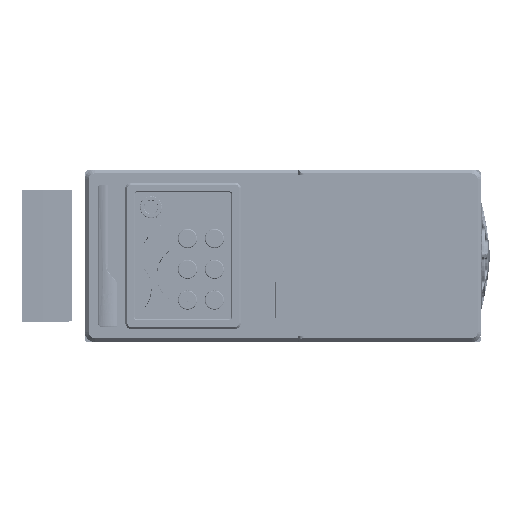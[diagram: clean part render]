
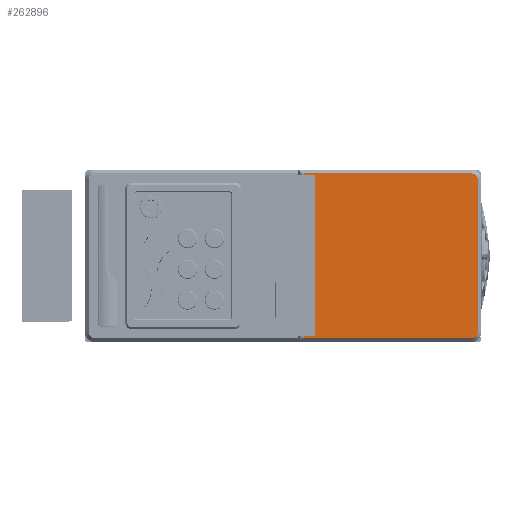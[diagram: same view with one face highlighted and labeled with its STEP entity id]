
A CAD part, top view. The second image highlights one B-rep face of the part: STEP entity #262896.
In plain terms, the highlighted planar face has unit normal (0, 0, 1) as drawn and (0, 1, 0) by its records, which use the part's own axes.
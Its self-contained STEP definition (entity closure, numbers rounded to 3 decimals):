
#259870=DIRECTION('',(-1.,0.,0.));
#259871=VECTOR('',#259870,1.027);
#259872=CARTESIAN_POINT('',(42.75,93.23,
84.09));
#259873=LINE('',#259872,#259871);
#259874=DIRECTION('',(-1.,0.,0.));
#259875=VECTOR('',#259874,83.446);
#259876=CARTESIAN_POINT('',(41.723,93.23,78.551));
#259877=LINE('',#259876,#259875);
#259878=DIRECTION('',(-1.,0.,0.));
#259879=VECTOR('',#259878,1.027);
#259880=CARTESIAN_POINT('',(-41.723,93.23,84.09));
#259881=LINE('',#259880,#259879);
#259882=CARTESIAN_POINT('',(-39.75,93.23,-3.079));
#259883=DIRECTION('',(0.,-1.,0.));
#259884=DIRECTION('',(-1.,0.,0.));
#259885=AXIS2_PLACEMENT_3D('',#259882,#259883,#259884);
#259887=CARTESIAN_POINT('',(39.75,93.23,-3.079));
#259888=DIRECTION('',(0.,-1.,0.));
#259889=DIRECTION('',(0.,0.,-1.));
#259890=AXIS2_PLACEMENT_3D('',#259887,#259888,#259889);
#259903=DIRECTION('',(0.,0.,-1.));
#259904=VECTOR('',#259903,87.169);
#259905=CARTESIAN_POINT('',(42.75,93.23,
84.09));
#259906=LINE('',#259905,#259904);
#260580=DIRECTION('',(0.,0.,1.));
#260581=VECTOR('',#260580,87.169);
#260582=CARTESIAN_POINT('',(-42.75,93.23,
-3.079));
#260583=LINE('',#260582,#260581);
#260600=DIRECTION('',(0.,0.,-1.));
#260601=VECTOR('',#260600,5.538);
#260602=CARTESIAN_POINT('',(-41.723,93.23,84.09));
#260603=LINE('',#260602,#260601);
#260683=DIRECTION('',(0.,0.,1.));
#260684=VECTOR('',#260683,5.538);
#260685=CARTESIAN_POINT('',(41.723,93.23,78.551));
#260686=LINE('',#260685,#260684);
#262226=DIRECTION('',(-1.,0.,0.));
#262227=VECTOR('',#262226,79.5);
#262228=CARTESIAN_POINT('',(39.75,93.23,
-6.079));
#262229=LINE('',#262228,#262227);
#262234=CARTESIAN_POINT('',(42.75,93.23,
84.09));
#262235=CARTESIAN_POINT('',(41.723,93.23,84.09));
#262236=VERTEX_POINT('',#262234);
#262237=VERTEX_POINT('',#262235);
#262238=CARTESIAN_POINT('',(41.723,93.23,78.551));
#262239=VERTEX_POINT('',#262238);
#262240=CARTESIAN_POINT('',(-41.723,93.23,78.551));
#262241=VERTEX_POINT('',#262240);
#262242=CARTESIAN_POINT('',(-41.723,93.23,84.09));
#262243=VERTEX_POINT('',#262242);
#262244=CARTESIAN_POINT('',(-42.75,93.23,
84.09));
#262245=VERTEX_POINT('',#262244);
#262246=CARTESIAN_POINT('',(-42.75,93.23,
-3.079));
#262247=VERTEX_POINT('',#262246);
#262248=CARTESIAN_POINT('',(-39.75,93.23,-6.079));
#262249=VERTEX_POINT('',#262248);
#262250=CARTESIAN_POINT('',(39.75,93.23,
-6.079));
#262251=VERTEX_POINT('',#262250);
#262252=CARTESIAN_POINT('',(42.75,93.23,-3.079));
#262253=VERTEX_POINT('',#262252);
#262869=CARTESIAN_POINT('',(-44.723,93.23,50.));
#262870=DIRECTION('',(0.,1.,0.));
#262871=DIRECTION('',(0.,0.,-1.));
#262872=AXIS2_PLACEMENT_3D('',#262869,#262870,#262871);
#262873=PLANE('',#262872);
#262875=ORIENTED_EDGE('',*,*,#262874,.T.);
#262877=ORIENTED_EDGE('',*,*,#262876,.F.);
#262879=ORIENTED_EDGE('',*,*,#262878,.T.);
#262881=ORIENTED_EDGE('',*,*,#262880,.F.);
#262883=ORIENTED_EDGE('',*,*,#262882,.T.);
#262885=ORIENTED_EDGE('',*,*,#262884,.F.);
#262887=ORIENTED_EDGE('',*,*,#262886,.T.);
#262889=ORIENTED_EDGE('',*,*,#262888,.F.);
#262891=ORIENTED_EDGE('',*,*,#262890,.T.);
#262893=ORIENTED_EDGE('',*,*,#262892,.F.);
#262894=EDGE_LOOP('',(#262875,#262877,#262879,#262881,#262883,#262885,#262887,
#262889,#262891,#262893));
#262895=FACE_OUTER_BOUND('',#262894,.F.);
#262896=ADVANCED_FACE('',(#262895),#262873,.T.);
#259886=CIRCLE('',#259885,3.);
#259891=CIRCLE('',#259890,3.);
#262874=EDGE_CURVE('',#262236,#262237,#259873,.T.);
#262876=EDGE_CURVE('',#262239,#262237,#260686,.T.);
#262878=EDGE_CURVE('',#262239,#262241,#259877,.T.);
#262880=EDGE_CURVE('',#262243,#262241,#260603,.T.);
#262882=EDGE_CURVE('',#262243,#262245,#259881,.T.);
#262884=EDGE_CURVE('',#262247,#262245,#260583,.T.);
#262886=EDGE_CURVE('',#262247,#262249,#259886,.T.);
#262888=EDGE_CURVE('',#262251,#262249,#262229,.T.);
#262890=EDGE_CURVE('',#262251,#262253,#259891,.T.);
#262892=EDGE_CURVE('',#262236,#262253,#259906,.T.);
